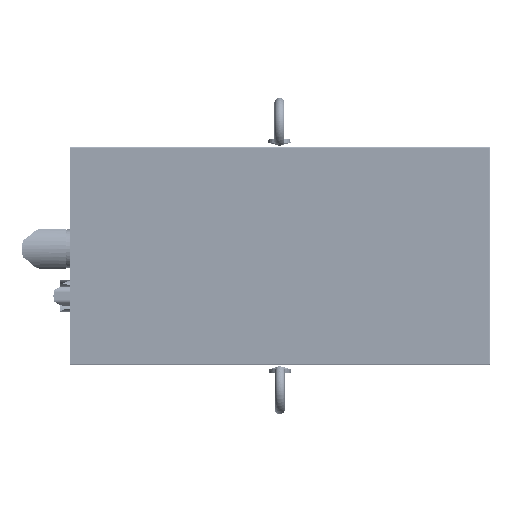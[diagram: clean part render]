
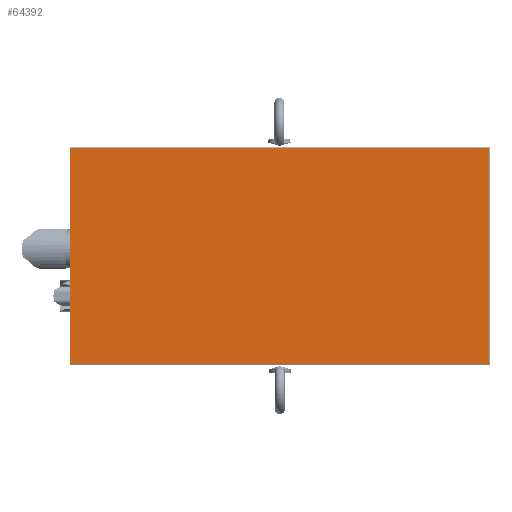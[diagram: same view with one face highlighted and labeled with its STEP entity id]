
A CAD part, top view. The second image highlights one B-rep face of the part: STEP entity #64392.
In plain terms, the highlighted planar face has unit normal (0, 0, 1).
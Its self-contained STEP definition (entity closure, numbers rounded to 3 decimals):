
#64353=CARTESIAN_POINT('',(-72.5,65.,568.));
#64354=DIRECTION('',(0.,1.,0.));
#64355=DIRECTION('',(0.,-0.,1.));
#64356=AXIS2_PLACEMENT_3D('',#64353,#64355,#64354);
#64357=PLANE('',#64356);
#64358=CARTESIAN_POINT('',(-206.5,-69.,568.));
#64359=VERTEX_POINT('',#64358);
#64360=CARTESIAN_POINT('',(61.5,-69.,568.));
#64361=VERTEX_POINT('',#64360);
#64362=CARTESIAN_POINT('',(-206.5,-69.,568.));
#64363=DIRECTION('',(1.,0.,0.));
#64364=VECTOR('',#64363,268.);
#64365=LINE('',#64362,#64364);
#64366=EDGE_CURVE('',#64359,#64361,#64365,.T.);
#64367=ORIENTED_EDGE('E8181',*,*,#64366,.T.);
#64368=CARTESIAN_POINT('',(61.5,69.,568.));
#64369=VERTEX_POINT('',#64368);
#64370=CARTESIAN_POINT('',(61.5,-69.,568.));
#64371=DIRECTION('',(0.,1.,0.));
#64372=VECTOR('',#64371,138.);
#64373=LINE('',#64370,#64372);
#64374=EDGE_CURVE('',#64361,#64369,#64373,.T.);
#64375=ORIENTED_EDGE('E8182',*,*,#64374,.T.);
#64376=CARTESIAN_POINT('',(-206.5,69.,568.));
#64377=VERTEX_POINT('',#64376);
#64378=CARTESIAN_POINT('',(61.5,69.,568.));
#64379=DIRECTION('',(-1.,0.,0.));
#64380=VECTOR('',#64379,268.);
#64381=LINE('',#64378,#64380);
#64382=EDGE_CURVE('',#64369,#64377,#64381,.T.);
#64383=ORIENTED_EDGE('E8183',*,*,#64382,.T.);
#64384=CARTESIAN_POINT('',(-206.5,69.,568.));
#64385=DIRECTION('',(0.,-1.,0.));
#64386=VECTOR('',#64385,138.);
#64387=LINE('',#64384,#64386);
#64388=EDGE_CURVE('',#64377,#64359,#64387,.T.);
#64389=ORIENTED_EDGE('E8184',*,*,#64388,.T.);
#64390=EDGE_LOOP('',(#64367,#64375,#64383,#64389));
#64391=FACE_OUTER_BOUND('',#64390,.T.);
#64392=ADVANCED_FACE('F3129',(#64391),#64357,.T.);
